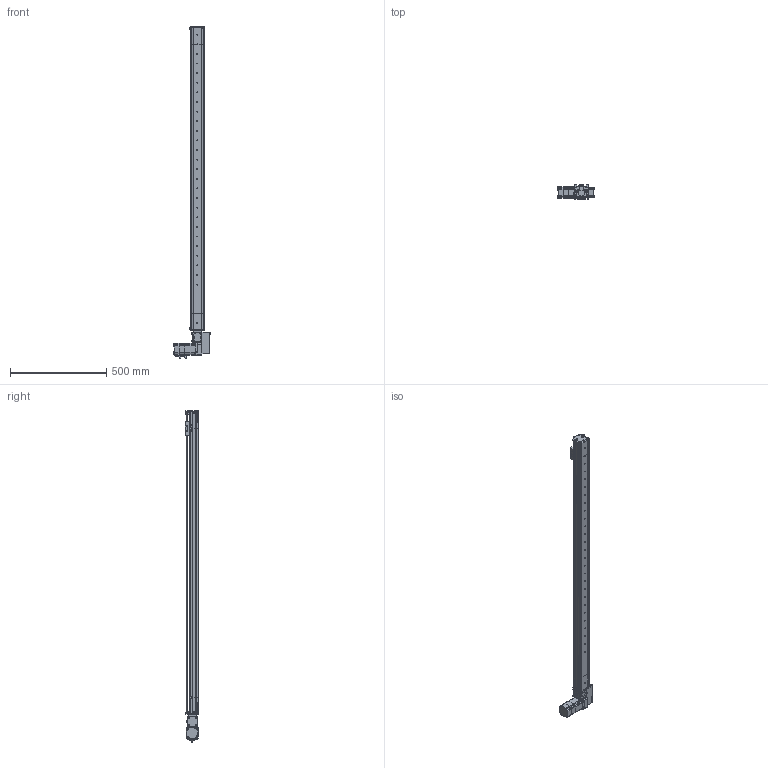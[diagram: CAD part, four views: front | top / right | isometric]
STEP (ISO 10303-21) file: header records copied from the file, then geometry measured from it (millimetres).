
FILE_DESCRIPTION (( 'STEP AP214' ), '1' );
FILE_NAME ('S07 TBN LH S1400.STEP', '2010-06-29T12:08:05', ( 'Conseil Régional Haute-Normandie' ), ( 'Conseil Régional Haute-Normandie' ), 'SwSTEP 2.0', 'SolidWorks 2010', '' );
FILE_SCHEMA (( 'AUTOMOTIVE_DESIGN' ));
Length unit declared in the file: millimetre
Products named in the file (41): Axe 60BLDC_Default; vis M5 L16_Default; Chariot; vis M5 L12_Default; Poulie_Default; T皻e de poulie_Default; guide; CHariot_Default; couroie tail_Default; couvercle tail TB; plaque de bout_Default; Cvis M5 L30_Default; VisM3_Default; Conecteur2 60BLDC_Default; corp tail TB_Default; S07 TB tail (78)_Default; Vis M5 L16-2_Default; Conecteur 60BLDC_Default; S07 TBN LH S1400; Couroie  course 1400_Default; Corp S07 course 1400_Default; Course C L1400_Default; corp moteur LH-RH(146)_Default; S07 LH(146)_Default; couvercle S07 course 1400 ; cache t皻e axe_Default; couvercle moteur S07 TB; plaque de bout LH_Default; vis M5 L5_Default; cache t皻e_Default; Poulie head_Default; Plaque racord_Default; Couroie t皻e_Default; Pièce5^S07 LH(146); P1_Default; GMB 60 90 310_Default; renvoi LH_Default; P4_Default; P3 90A_Default; P2 90A_Default
Assembly tree (80 placements, depth 4):
  S07 TBN LH S1400
    S07 TB tail (78)_Default
      vis M5 L12_Default  x10
      Poulie_Default
        Poulie_Default
        T皻e de poulie_Default
      corp tail TB_Default
      plaque de bout_Default
      couroie tail_Default
      couvercle tail TB
    Course C L1400_Default
      couvercle S07 course 1400 
      Corp S07 course 1400_Default
      Couroie  course 1400_Default
    S07 LH(146)_Default
      Plaque racord_Default
      vis M5 L12_Default  x6
      Vis M5 L16-2_Default  x8
      renvoi LH_Default
      cache t皻e axe_Default
      vis M5 L5_Default  x6
      couvercle moteur S07 TB
      cache t皻e_Default  x2
      plaque de bout LH_Default
      corp moteur LH-RH(146)_Default
      Poulie head_Default
      GMB 60 90 310_Default
        VisM3_Default  x12
        P1_Default
        P4_Default
        Conecteur2 60BLDC_Default
        Axe 60BLDC_Default
        Conecteur 60BLDC_Default
        P3 90A_Default
        P2 90A_Default
      Cvis M5 L30_Default  x2
      Couroie t皻e_Default
    CHariot_Default
      Chariot
      vis M5 L16_Default  x2
      guide
  Pièce5^S07 LH(146)
Bounding box: 190.2 x 72.2 x 1727 mm (x, y, z)
Volume: 3272189.2 mm3; surface area: 1424682.2 mm2
Topology: 102 solids, 102 shells, 3954 faces, 9834 edges, 6353 vertices
Faces by surface type: plane 2241, cylinder 783, bspline 677, cone 125, torus 124, sphere 4
Entity records: 168061 total; most frequent: CARTESIAN_POINT 75345, ORIENTED_EDGE 15580, DIRECTION 12461, EDGE_CURVE 7790, VERTEX_POINT 5141, VECTOR 5067, LINE 5067, AXIS2_PLACEMENT_3D 3697
